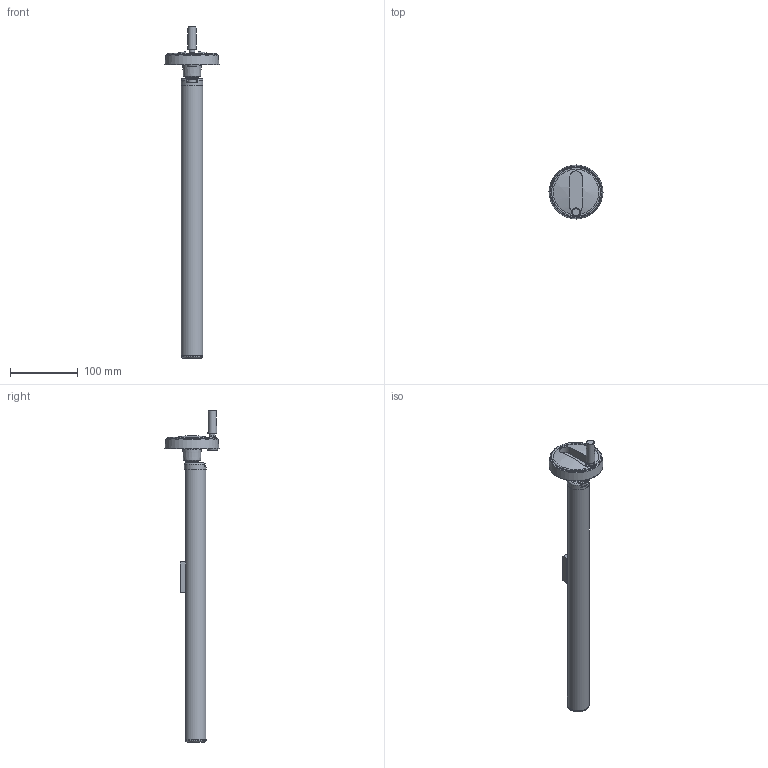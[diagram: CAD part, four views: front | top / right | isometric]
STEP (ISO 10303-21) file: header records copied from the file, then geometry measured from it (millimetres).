
FILE_DESCRIPTION((''),'2;1');
FILE_NAME('C:\Andys Backup Data\WEBSITE\DREAMWEAVER\MiniTec\Products\Leadscrew_Positioners_LG\CAD\Step\28.0353 MINI ADJ UNIT WITH HANDLE PROFILE 32.stp','2015-11-10T08:57:53',('amoles'),(''),'Autodesk Inventor 2012','Autodesk Inventor 2012','');
FILE_SCHEMA(('AUTOMOTIVE_DESIGN { 1 0 10303 214 1 1 1 1 }'));
Length unit declared in the file: millimetre
Products named in the file (16): 28.0353 MINI ADJ UNIT WITH HANDLE PROFILE 32; 28.0353 HANDLE PROFILE 32; 28.0350 MINI ADJ UNIT FITTING KIT; 28.0350_1 MINI ADJ M8 LEADSCREW; 28.0363 M8 DISTANCE RING; 21.1975 BUSHING; 28.0361 MINI ADJ CARRIAGE; 28.0362 CLAMP BLOCK; 21.1380 M6X12 SET SCREW FLAT END; 28.0367 MINI ADJ BEARING SUPPORT HANDLE 32; 22.1023_1 END CAP FOR HANDLE PROFILE 32; 28.0212 HANDWHEEL 80mm; 28.0212_1 MINI ADJ HANDWHEEL; 21.1314 M4X8 SET SCREW CONE POINT DIN 914; 19.0100_6 BUSHING; 21.1200 M8 x 16
Assembly tree (17 placements, depth 3):
  28.0353 MINI ADJ UNIT WITH HANDLE PROFILE 32
    28.0353 HANDLE PROFILE 32
    28.0350 MINI ADJ UNIT FITTING KIT
      28.0350_1 MINI ADJ M8 LEADSCREW
      28.0363 M8 DISTANCE RING  x2
      21.1975 BUSHING  x2
      28.0361 MINI ADJ CARRIAGE
      28.0362 CLAMP BLOCK
      21.1380 M6X12 SET SCREW FLAT END
    28.0367 MINI ADJ BEARING SUPPORT HANDLE 32
    22.1023_1 END CAP FOR HANDLE PROFILE 32
    28.0212 HANDWHEEL 80mm
      28.0212_1 MINI ADJ HANDWHEEL
      21.1314 M4X8 SET SCREW CONE POINT DIN 914
    19.0100_6 BUSHING
    21.1200 M8 x 16
Bounding box: 79.81 x 79.81 x 490.4 mm (x, y, z)
Volume: 264029.8 mm3; surface area: 158338.3 mm2
Topology: 15 solids, 16 shells, 582 faces, 1337 edges, 799 vertices
Faces by surface type: plane 219, cylinder 195, cone 80, sphere 50, torus 22, bspline 16
Full cylindrical faces by diameter (mm): 3.242 x3, 4 x3, 4.917 x2, 6 x7, 6.97 x1, 7 x3, 8 x3, 9 x3, 10 x4, 11 x2, 13 x1, 13.3 x1, 17.1 x1, 19 x1, 32 x1
Entity records: 16475 total; most frequent: CARTESIAN_POINT 3750, DIRECTION 2720, ORIENTED_EDGE 2276, EDGE_CURVE 1138, AXIS2_PLACEMENT_3D 1062, VERTEX_POINT 746, EDGE_LOOP 730, VECTOR 596
